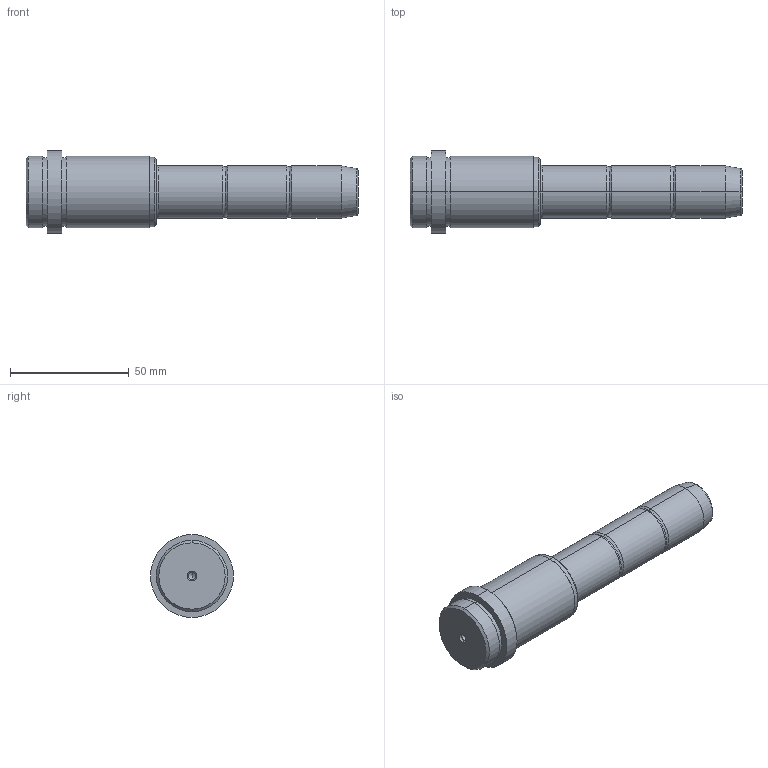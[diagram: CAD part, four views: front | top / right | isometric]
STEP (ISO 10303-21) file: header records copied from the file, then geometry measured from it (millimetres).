
FILE_DESCRIPTION( ( 'STEP AP203' ), '1' );
FILE_NAME( 'C:/Projects/D03 - 22x46x85.step', '2003-01-03T00:29:09', ( ' ' ), ( ' ' ), 'XStep 1.0', ' ', ' ' );
FILE_SCHEMA( ( 'CONFIG_CONTROL_DESIGN' ) );
Length unit declared in the file: metre
Products named in the file (1): 1
Bounding box: 140 x 35 x 35 mm (x, y, z)
Volume: 72150 mm3; surface area: 13067.1 mm2
Topology: 1 solids, 1 shells, 56 faces, 113 edges, 64 vertices
Faces by surface type: revolution 36, bspline 20
Entity records: 1691 total; most frequent: CARTESIAN_POINT 513, ORIENTED_EDGE 220, DIRECTION 218, EDGE_CURVE 110, AXIS2_PLACEMENT_3D 73, CIRCLE 72, EDGE_LOOP 64, VERTEX_POINT 64
